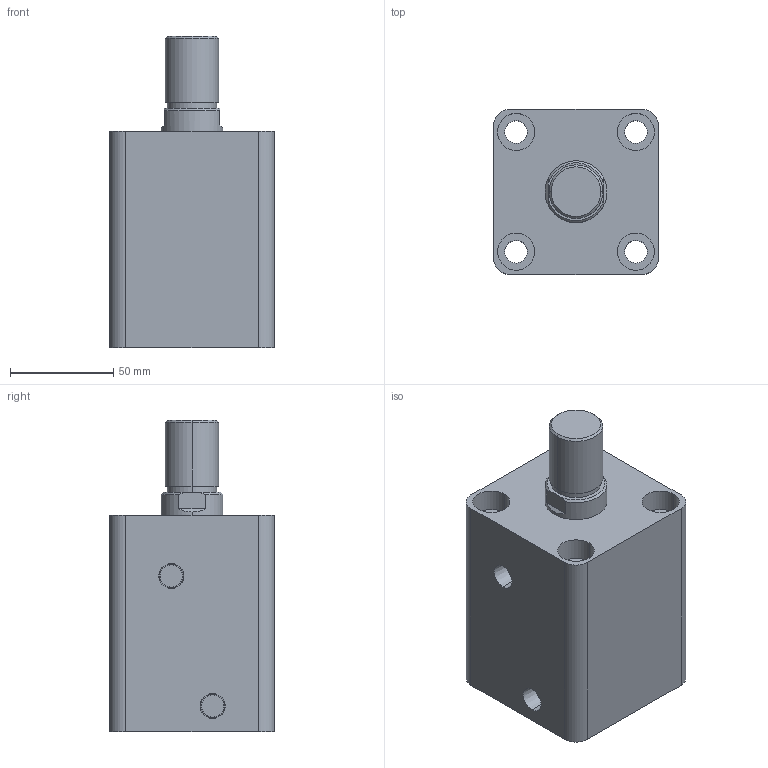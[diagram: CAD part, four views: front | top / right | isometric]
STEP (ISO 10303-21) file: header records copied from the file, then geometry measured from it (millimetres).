
FILE_DESCRIPTION (( 'STEP AP203' ), '1' );
FILE_NAME ('HTB-SD50-45W.STEP', '2019-10-07T07:09:29', ( '微软用户' ), ( '微软中国' ), 'SwSTEP 2.0', 'SolidWorks 2012', '' );
FILE_SCHEMA (( 'CONFIG_CONTROL_DESIGN' ));
Length unit declared in the file: millimetre
Products named in the file (3): HTB-SD50-45W; HTB-SD50-45W活塞杆; HTB-SD50-45掛极
Assembly tree (2 placements, depth 2):
  HTB-SD50-45W
    HTB-SD50-45掛极
    HTB-SD50-45W活塞杆
Bounding box: 80 x 80 x 151 mm (x, y, z)
Volume: 579143.2 mm3; surface area: 94825.3 mm2
Topology: 2 solids, 2 shells, 87 faces, 190 edges, 124 vertices
Faces by surface type: cylinder 44, plane 29, cone 8, torus 6
Entity records: 2761 total; most frequent: DIRECTION 478, CARTESIAN_POINT 434, ORIENTED_EDGE 380, AXIS2_PLACEMENT_3D 204, EDGE_CURVE 190, VERTEX_POINT 124, EDGE_LOOP 112, CIRCLE 112
